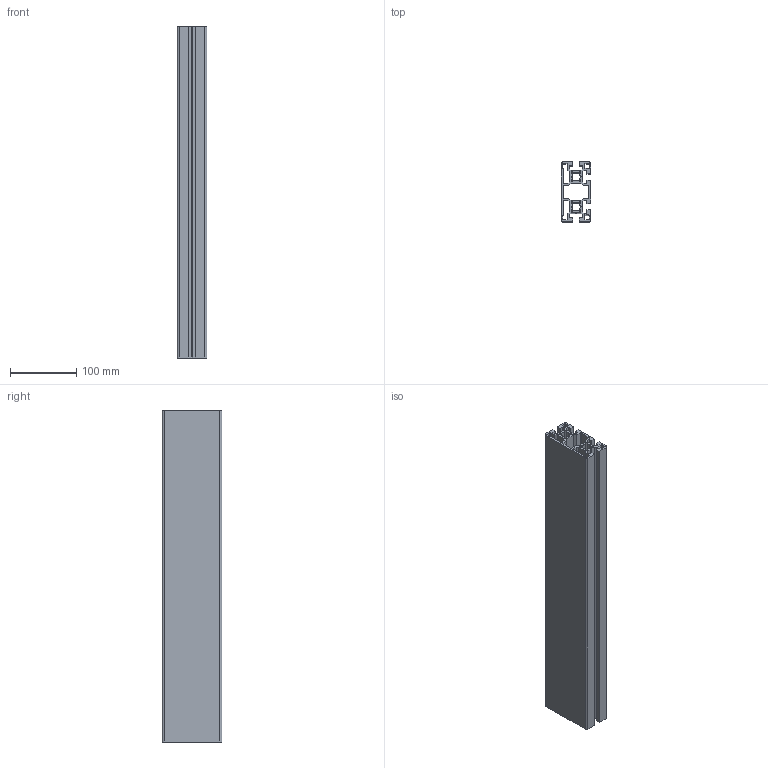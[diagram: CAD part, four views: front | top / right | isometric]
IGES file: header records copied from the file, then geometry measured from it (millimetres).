
Start section: SolidWorks IGES file using analytic representation for surfaces
Global section: file name: C:\Documents and Settings\Administrator\デスクトップ\指定保存後4回目\SolidWorks\SF\SF40・45\Frame\SFF-E494.IGS; native system: SolidWorks 2006 by SolidWorks Corporation; preprocessor: SolidWorks 2006 by SolidWorks Corporation; author: Administrator; date: 061218.111214; units: millimetre
Bounding box: 45 x 90 x 500 mm (x, y, z)
Volume: 719210.4 mm3; surface area: 454524.7 mm2
Topology: 1 solids, 1 shells, 200 faces, 594 edges, 396 vertices
Faces by surface type: plane 110, revolution 90
